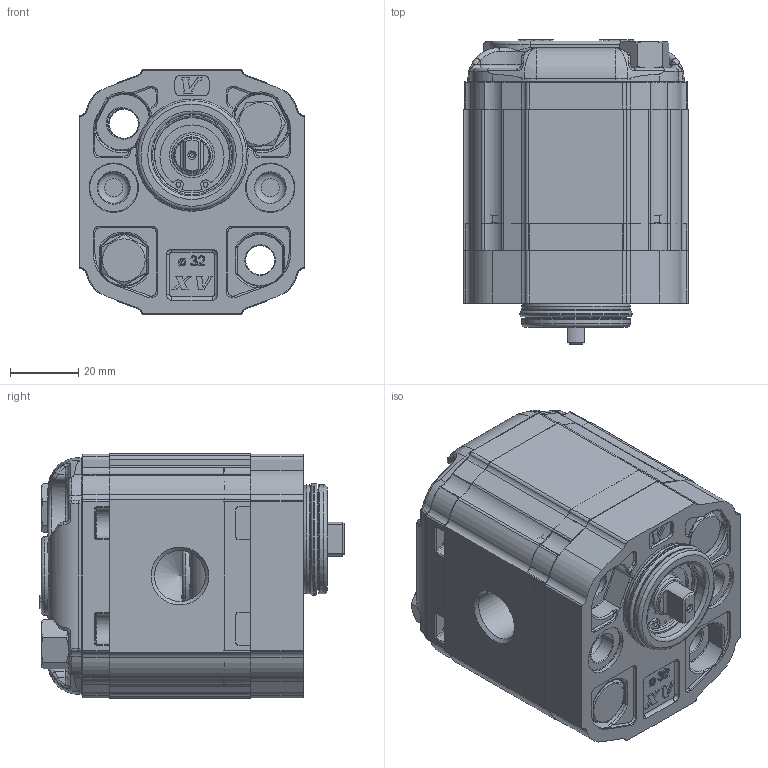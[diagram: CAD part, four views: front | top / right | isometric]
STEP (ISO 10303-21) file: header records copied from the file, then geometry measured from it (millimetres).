
FILE_DESCRIPTION( ( 'Unknown' ), '1' );
FILE_NAME( 'P:/montaggio_easy/output/STP/X1U1651DBBA.stp', 'Unknown', ( 'Unknown' ), ( 'Unknown' ), 'PSStep 14.0', 'Unknown', ' ' );
FILE_SCHEMA( ( 'AUTOMOTIVE_DESIGN { 1 0 10303 214 1 1 1 1 }' ) );
Length unit declared in the file: millimetre
Products named in the file (5): Assem1; X1U51; 1D; X1BBH41,5; XU140-A
Bounding box: 66 x 89.4 x 72 mm (x, y, z)
Surface area: 124081.2 mm2
Topology: 8 solids, 14 shells, 3682 faces, 9290 edges, 5886 vertices
Faces by surface type: plane 1650, cylinder 994, torus 382, extrusion 296, bspline 252, cone 100, sphere 8
Full cylindrical faces by diameter (mm): 1.447 x4, 1.5 x2, 2.5 x2, 3 x12, 8 x8, 8.5 x6, 9 x4, 9.3 x4, 10 x2, 10.5 x4, 11.965 x2, 12 x2, 12.4 x2, 14.5 x4, 14.95 x4, 15.115 x2, 17.147 x2, 19 x2, 20 x2, 21.8 x2, 22 x4, 22.2 x2, 23 x2, 24 x2, 29.4 x4, 32 x4, 32.96 x2
Entity records: 77306 total; most frequent: CARTESIAN_POINT 19467, ORIENTED_EDGE 8940, DIRECTION 8686, EDGE_CURVE 4470, AXIS2_PLACEMENT_3D 3028, VERTEX_POINT 2893, VECTOR 2630, LINE 2482
